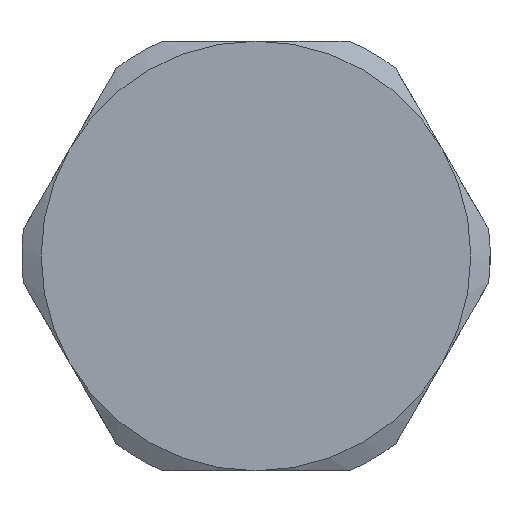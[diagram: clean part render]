
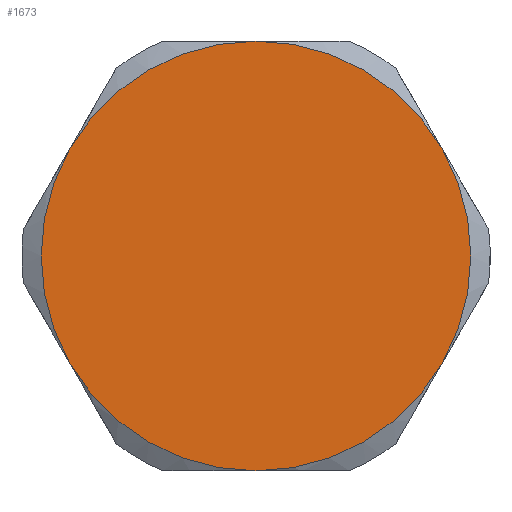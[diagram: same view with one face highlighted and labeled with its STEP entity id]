
A CAD part, left-side view. The second image highlights one B-rep face of the part: STEP entity #1673.
In plain terms, the highlighted planar face has unit normal (-1, 0, 0).
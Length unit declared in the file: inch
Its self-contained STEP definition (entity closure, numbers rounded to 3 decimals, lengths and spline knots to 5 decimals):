
#30=PLANE('',#1896);
#237=FACE_OUTER_BOUND('',#343,.T.);
#343=EDGE_LOOP('',(#1398,#1399,#1400,#1401,#1402,#1403));
#562=CIRCLE('',#1841,0.5);
#563=CIRCLE('',#1843,0.5);
#583=CIRCLE('',#1879,0.5);
#584=CIRCLE('',#1881,0.5);
#585=CIRCLE('',#1883,0.5);
#586=CIRCLE('',#1885,0.5);
#713=VERTEX_POINT('',#3260);
#714=VERTEX_POINT('',#3261);
#715=VERTEX_POINT('',#3270);
#716=VERTEX_POINT('',#3274);
#737=VERTEX_POINT('',#3415);
#738=VERTEX_POINT('',#3435);
#916=EDGE_CURVE('',#713,#714,#562,.T.);
#920=EDGE_CURVE('',#716,#715,#563,.T.);
#955=EDGE_CURVE('',#737,#713,#583,.T.);
#958=EDGE_CURVE('',#715,#737,#584,.T.);
#960=EDGE_CURVE('',#738,#716,#585,.T.);
#963=EDGE_CURVE('',#714,#738,#586,.T.);
#1398=ORIENTED_EDGE('',*,*,#916,.T.);
#1399=ORIENTED_EDGE('',*,*,#963,.T.);
#1400=ORIENTED_EDGE('',*,*,#960,.T.);
#1401=ORIENTED_EDGE('',*,*,#920,.T.);
#1402=ORIENTED_EDGE('',*,*,#958,.T.);
#1403=ORIENTED_EDGE('',*,*,#955,.T.);
#1673=ADVANCED_FACE('',(#237),#30,.F.);
#1841=AXIS2_PLACEMENT_3D('',#3262,#2225,#2226);
#1843=AXIS2_PLACEMENT_3D('',#3275,#2229,#2230);
#1879=AXIS2_PLACEMENT_3D('',#3422,#2309,#2310);
#1881=AXIS2_PLACEMENT_3D('',#3430,#2313,#2314);
#1883=AXIS2_PLACEMENT_3D('',#3436,#2317,#2318);
#1885=AXIS2_PLACEMENT_3D('',#3444,#2321,#2322);
#1896=AXIS2_PLACEMENT_3D('',#3482,#2343,#2344);
#2225=DIRECTION('center_axis',(-1.,0.,0.));
#2226=DIRECTION('ref_axis',(0.,1.,0.));
#2229=DIRECTION('center_axis',(-1.,0.,0.));
#2230=DIRECTION('ref_axis',(0.,1.,0.));
#2309=DIRECTION('center_axis',(-1.,0.,0.));
#2310=DIRECTION('ref_axis',(0.,1.,0.));
#2313=DIRECTION('center_axis',(-1.,0.,0.));
#2314=DIRECTION('ref_axis',(0.,1.,0.));
#2317=DIRECTION('center_axis',(-1.,0.,0.));
#2318=DIRECTION('ref_axis',(0.,1.,0.));
#2321=DIRECTION('center_axis',(-1.,0.,0.));
#2322=DIRECTION('ref_axis',(0.,1.,0.));
#2343=DIRECTION('center_axis',(1.,0.,0.));
#2344=DIRECTION('ref_axis',(0.,0.,-1.));
#3260=CARTESIAN_POINT('',(-0.19302,-0.43301,-0.22402));
#3261=CARTESIAN_POINT('',(-0.19302,-0.43301,0.27598));
#3262=CARTESIAN_POINT('Origin',(-0.19302,0.,0.02598));
#3270=CARTESIAN_POINT('',(-0.19302,0.43301,-0.22402));
#3274=CARTESIAN_POINT('',(-0.19302,0.43301,0.27598));
#3275=CARTESIAN_POINT('Origin',(-0.19302,0.,0.02598));
#3415=CARTESIAN_POINT('',(-0.19302,0.,-0.47402));
#3422=CARTESIAN_POINT('Origin',(-0.19302,0.,0.02598));
#3430=CARTESIAN_POINT('Origin',(-0.19302,0.,0.02598));
#3435=CARTESIAN_POINT('',(-0.19302,0.,0.52598));
#3436=CARTESIAN_POINT('Origin',(-0.19302,0.,0.02598));
#3444=CARTESIAN_POINT('Origin',(-0.19302,0.,0.02598));
#3482=CARTESIAN_POINT('Origin',(-0.19302,0.,0.02598));
